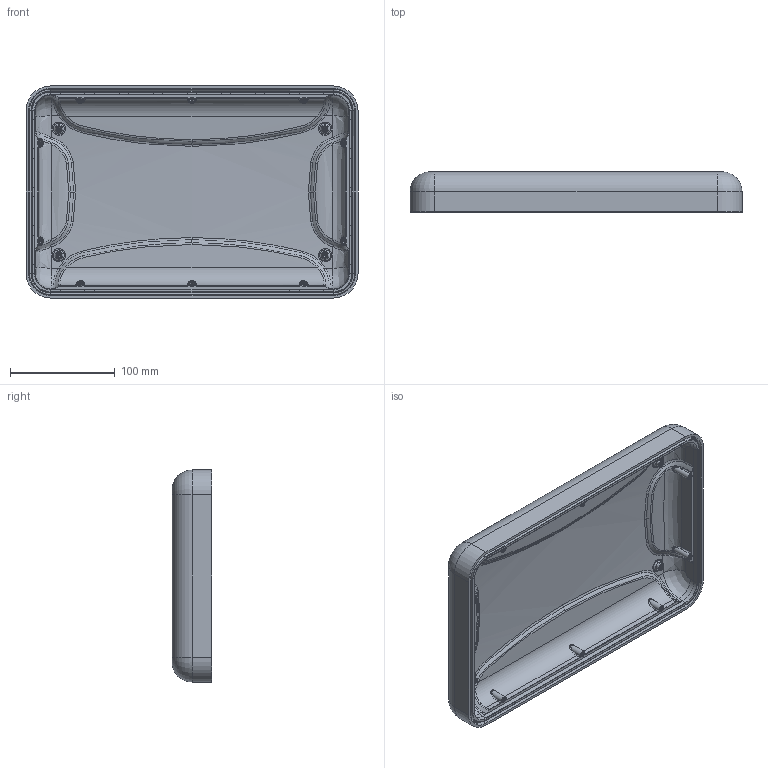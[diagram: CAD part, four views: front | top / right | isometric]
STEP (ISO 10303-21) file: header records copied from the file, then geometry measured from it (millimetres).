
FILE_DESCRIPTION (( 'STEP AP203' ), '1' );
FILE_NAME ('909_Top_Inner_Surfaces.STEP', '2017-11-21T21:18:41', ( '' ), ( '' ), 'SwSTEP 2.0', 'SolidWorks 2015', '' );
FILE_SCHEMA (( 'CONFIG_CONTROL_DESIGN' ));
Length unit declared in the file: inch
Products named in the file (1): 909_Top_Inner_Surfaces
Bounding box: 316.44 x 38.1 x 202.14 mm (x, y, z)
Volume: 819015.8 mm3; surface area: 188067.6 mm2
Topology: 1 solids, 3 shells, 772 faces, 1954 edges, 1264 vertices
Faces by surface type: bspline 309, plane 242, cylinder 88, torus 85, cone 48
Entity records: 73725 total; most frequent: CARTESIAN_POINT 57244, ORIENTED_EDGE 3908, DIRECTION 2629, EDGE_CURVE 1954, VERTEX_POINT 1264, AXIS2_PLACEMENT_3D 926, EDGE_LOOP 848, LINE 777
